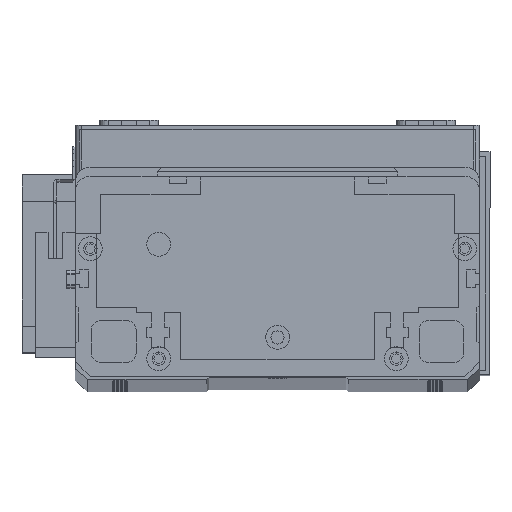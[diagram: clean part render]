
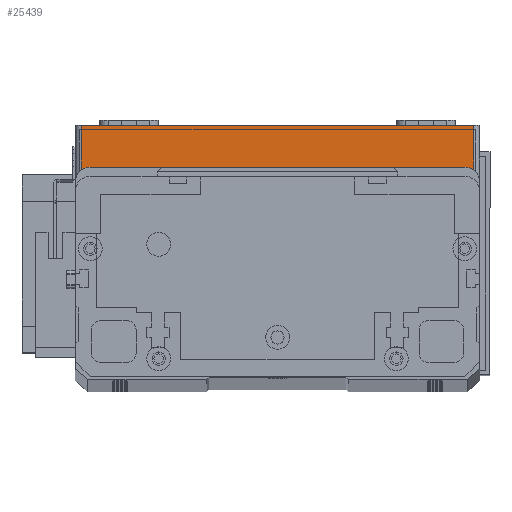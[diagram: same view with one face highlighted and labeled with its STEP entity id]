
A CAD part, top view. The second image highlights one B-rep face of the part: STEP entity #25439.
In plain terms, the highlighted planar face has unit normal (0, 0, 1) as drawn and (0, -1, 0) by its records, which use the part's own axes.
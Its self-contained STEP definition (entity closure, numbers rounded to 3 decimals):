
#55 = VECTOR ( 'NONE', #5471, 1000. ) ;
#316 = CARTESIAN_POINT ( 'NONE',  ( 0., 0., 19.5 ) ) ;
#1656 = EDGE_CURVE ( 'NONE', #27496, #9606, #3590, .T. ) ;
#1852 = AXIS2_PLACEMENT_3D ( 'NONE', #316, #16747, #2685 ) ;
#2685 = DIRECTION ( 'NONE',  ( 0., 0., 1. ) ) ;
#3403 = EDGE_CURVE ( 'NONE', #26029, #9606, #27261, .T. ) ;
#3583 = VERTEX_POINT ( 'NONE', #28536 ) ;
#3590 = LINE ( 'NONE', #11249, #27837 ) ;
#3963 = EDGE_CURVE ( 'NONE', #3583, #27496, #6285, .T. ) ;
#5471 = DIRECTION ( 'NONE',  ( 1., 0., 0. ) ) ;
#6285 = LINE ( 'NONE', #21902, #55 ) ;
#7006 = ORIENTED_EDGE ( 'NONE', *, *, #3403, .F. ) ;
#8532 = VECTOR ( 'NONE', #20734, 1000. ) ;
#9606 = VERTEX_POINT ( 'NONE', #24606 ) ;
#11249 = CARTESIAN_POINT ( 'NONE',  ( 134., 0., 19.5 ) ) ;
#11564 = CARTESIAN_POINT ( 'NONE',  ( 134., 0., 0. ) ) ;
#12255 = LINE ( 'NONE', #26357, #24780 ) ;
#12266 = DIRECTION ( 'NONE',  ( 0., 0., -1. ) ) ;
#14380 = PLANE ( 'NONE',  #1852 ) ;
#14438 = ORIENTED_EDGE ( 'NONE', *, *, #19122, .T. ) ;
#16747 = DIRECTION ( 'NONE',  ( 0., 1., 0. ) ) ;
#18370 = CARTESIAN_POINT ( 'NONE',  ( 0., 0., 19.5 ) ) ;
#19122 = EDGE_CURVE ( 'NONE', #26029, #3583, #12255, .T. ) ;
#20221 = ORIENTED_EDGE ( 'NONE', *, *, #3963, .T. ) ;
#20734 = DIRECTION ( 'NONE',  ( 1., 0., 0. ) ) ;
#21902 = CARTESIAN_POINT ( 'NONE',  ( 0., 0., 0. ) ) ;
#22285 = ORIENTED_EDGE ( 'NONE', *, *, #1656, .T. ) ;
#23614 = CARTESIAN_POINT ( 'NONE',  ( 2., 0., 19.5 ) ) ;
#24606 = CARTESIAN_POINT ( 'NONE',  ( 134., 0., 19.5 ) ) ;
#24780 = VECTOR ( 'NONE', #12266, 1000. ) ;
#25439 = ADVANCED_FACE ( 'NONE', ( #29341 ), #14380, .F. ) ;
#25458 = DIRECTION ( 'NONE',  ( 0., 0., 1. ) ) ;
#26029 = VERTEX_POINT ( 'NONE', #23614 ) ;
#26357 = CARTESIAN_POINT ( 'NONE',  ( 2., 0., 19.5 ) ) ;
#27261 = LINE ( 'NONE', #18370, #8532 ) ;
#27496 = VERTEX_POINT ( 'NONE', #11564 ) ;
#27837 = VECTOR ( 'NONE', #25458, 1000. ) ;
#28275 = EDGE_LOOP ( 'NONE', ( #7006, #14438, #20221, #22285 ) ) ;
#28536 = CARTESIAN_POINT ( 'NONE',  ( 2., 0., 0. ) ) ;
#29341 = FACE_OUTER_BOUND ( 'NONE', #28275, .T. ) ;
